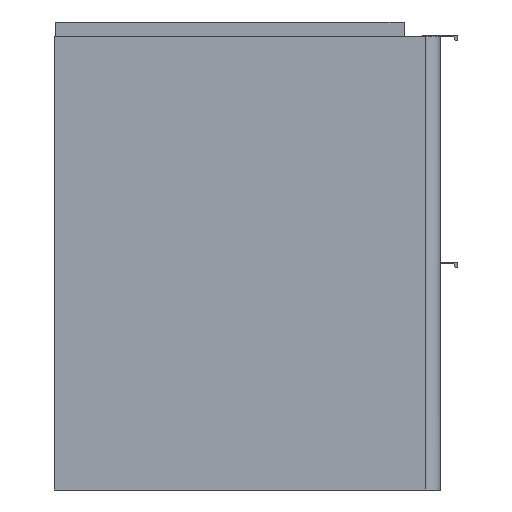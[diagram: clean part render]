
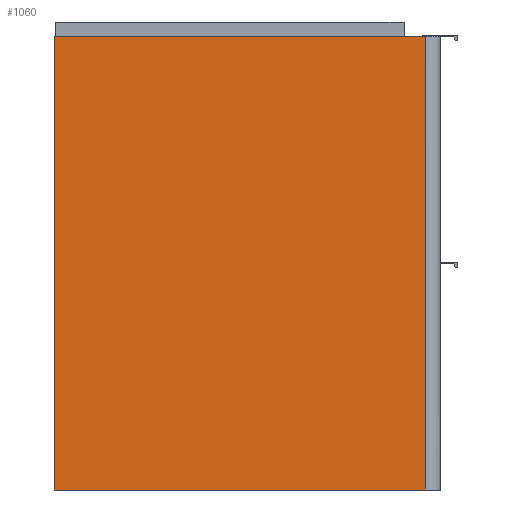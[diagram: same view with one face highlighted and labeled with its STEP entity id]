
A CAD part, left-side view. The second image highlights one B-rep face of the part: STEP entity #1060.
In plain terms, the highlighted planar face has unit normal (-1, 0, 0).
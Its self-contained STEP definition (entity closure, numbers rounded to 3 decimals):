
#1060=ADVANCED_FACE('',(#1657),#10995,.T.);
#1657=FACE_OUTER_BOUND('',#2352,.T.);
#2352=EDGE_LOOP('',(#5767,#5768,#5769,#5770));
#5767=ORIENTED_EDGE('',*,*,#7558,.F.);
#5768=ORIENTED_EDGE('',*,*,#7565,.T.);
#5769=ORIENTED_EDGE('',*,*,#7566,.T.);
#5770=ORIENTED_EDGE('',*,*,#7561,.T.);
#7558=EDGE_CURVE('',#10535,#10536,#9306,.T.);
#7561=EDGE_CURVE('',#10538,#10536,#9308,.T.);
#7565=EDGE_CURVE('',#10535,#10541,#9312,.T.);
#7566=EDGE_CURVE('',#10541,#10538,#9313,.T.);
#9306=B_SPLINE_CURVE_WITH_KNOTS('',1,(#20458,#20459),.UNSPECIFIED.,.F.,
 .F.,(2,2),(0.,515.),.UNSPECIFIED.);
#9308=B_SPLINE_CURVE_WITH_KNOTS('',1,(#20465,#20466),.UNSPECIFIED.,.F.,
 .F.,(2,2),(-421.,0.),.UNSPECIFIED.);
#9312=B_SPLINE_CURVE_WITH_KNOTS('',1,(#20473,#20474),.UNSPECIFIED.,.F.,
 .F.,(2,2),(-421.,0.),.UNSPECIFIED.);
#9313=B_SPLINE_CURVE_WITH_KNOTS('',1,(#20475,#20476),.UNSPECIFIED.,.F.,
 .F.,(2,2),(-515.,0.),.UNSPECIFIED.);
#10535=VERTEX_POINT('',#20446);
#10536=VERTEX_POINT('',#20447);
#10538=VERTEX_POINT('',#20449);
#10541=VERTEX_POINT('',#20452);
#10995=PLANE('',#12109);
#12109=AXIS2_PLACEMENT_3D('',#20440,#12680,$);
#12680=DIRECTION('',(-1.,0.,0.));
#20440=CARTESIAN_POINT('',(-285.,261.22,-51.62));
#20446=CARTESIAN_POINT('',(-285.,-202.,515.));
#20447=CARTESIAN_POINT('',(-285.,-202.,0.));
#20449=CARTESIAN_POINT('',(-285.,219.,0.));
#20452=CARTESIAN_POINT('',(-285.,219.,515.));
#20458=CARTESIAN_POINT('',(-285.,-202.,515.));
#20459=CARTESIAN_POINT('',(-285.,-202.,0.));
#20465=CARTESIAN_POINT('',(-285.,219.,0.));
#20466=CARTESIAN_POINT('',(-285.,-202.,0.));
#20473=CARTESIAN_POINT('',(-285.,-202.,515.));
#20474=CARTESIAN_POINT('',(-285.,219.,515.));
#20475=CARTESIAN_POINT('',(-285.,219.,515.));
#20476=CARTESIAN_POINT('',(-285.,219.,0.));
